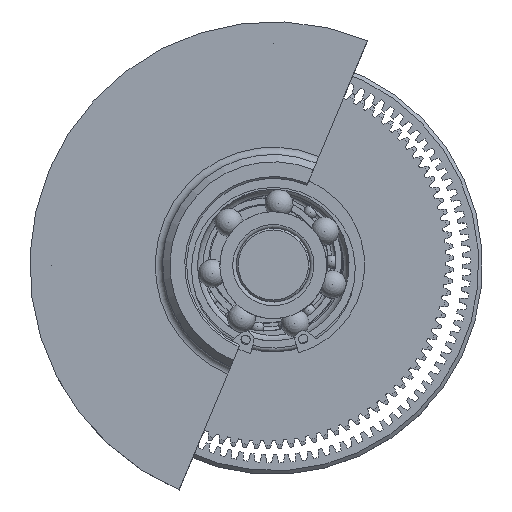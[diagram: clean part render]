
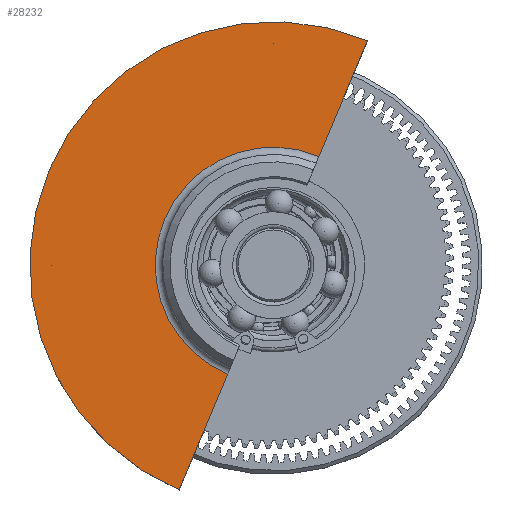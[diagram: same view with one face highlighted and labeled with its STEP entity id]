
A CAD part, top view. The second image highlights one B-rep face of the part: STEP entity #28232.
In plain terms, the highlighted planar face has unit normal (0, 0, 1).
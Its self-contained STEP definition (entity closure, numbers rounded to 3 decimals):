
#1453=LINE('',#52797,#2696);
#1467=LINE('',#52826,#2710);
#2696=VECTOR('',#42951,10.);
#2710=VECTOR('',#42967,10.);
#2879=PLANE('',#32880);
#5534=FACE_OUTER_BOUND('',#7121,.T.);
#7121=EDGE_LOOP('',(#25895,#25896,#25897,#25898));
#10187=CIRCLE('',#32879,32.);
#10188=CIRCLE('',#32881,66.);
#13105=VERTEX_POINT('',#52794);
#13106=VERTEX_POINT('',#52796);
#13119=VERTEX_POINT('',#52823);
#13120=VERTEX_POINT('',#52825);
#17400=EDGE_CURVE('',#13106,#13105,#1453,.T.);
#17414=EDGE_CURVE('',#13120,#13119,#1467,.T.);
#17431=EDGE_CURVE('',#13120,#13105,#10187,.T.);
#17432=EDGE_CURVE('',#13119,#13106,#10188,.T.);
#25895=ORIENTED_EDGE('',*,*,#17414,.T.);
#25896=ORIENTED_EDGE('',*,*,#17432,.T.);
#25897=ORIENTED_EDGE('',*,*,#17400,.T.);
#25898=ORIENTED_EDGE('',*,*,#17431,.F.);
#28232=ADVANCED_FACE('',(#5534),#2879,.T.);
#32879=AXIS2_PLACEMENT_3D('',#52858,#42995,#42996);
#32880=AXIS2_PLACEMENT_3D('',#52859,#42997,#42998);
#32881=AXIS2_PLACEMENT_3D('',#52860,#42999,#43000);
#42951=DIRECTION('',(0.,1.,0.));
#42967=DIRECTION('',(0.,1.,0.));
#42995=DIRECTION('center_axis',(0.,0.,1.));
#42996=DIRECTION('ref_axis',(-1.,0.,0.));
#42997=DIRECTION('center_axis',(0.,0.,1.));
#42998=DIRECTION('ref_axis',(1.,0.,0.));
#42999=DIRECTION('center_axis',(0.,0.,1.));
#43000=DIRECTION('ref_axis',(-1.,0.,0.));
#52794=CARTESIAN_POINT('',(0.,-32.,12.));
#52796=CARTESIAN_POINT('',(0.,-66.,12.));
#52797=CARTESIAN_POINT('',(0.,0.,12.));
#52823=CARTESIAN_POINT('',(0.,66.,12.));
#52825=CARTESIAN_POINT('',(0.,32.,12.));
#52826=CARTESIAN_POINT('',(0.,0.,12.));
#52858=CARTESIAN_POINT('Origin',(0.,0.,12.));
#52859=CARTESIAN_POINT('Origin',(0.,0.,12.));
#52860=CARTESIAN_POINT('Origin',(0.,0.,12.));
